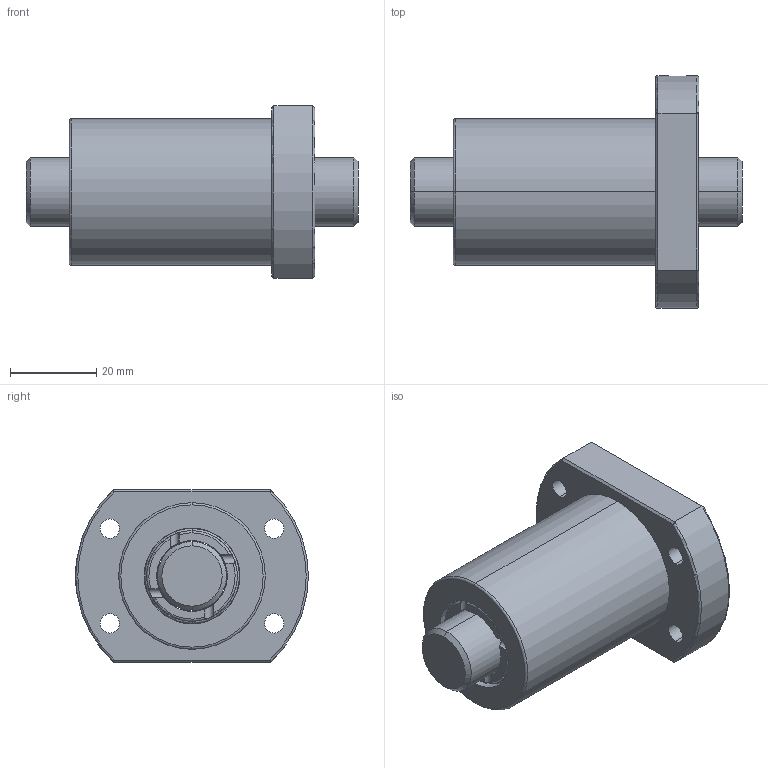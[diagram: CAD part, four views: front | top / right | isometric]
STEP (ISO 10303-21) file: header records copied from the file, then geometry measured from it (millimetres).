
FILE_DESCRIPTION (( 'STEP AP203' ), '1' );
FILE_NAME ('SFBR01610T3D.STEP', '2020-06-17T08:58:36', ( '' ), ( '' ), 'SwSTEP 2.0', 'SolidWorks 2013', '' );
FILE_SCHEMA (( 'CONFIG_CONTROL_DESIGN' ));
Length unit declared in the file: millimetre
Products named in the file (1): SFBR01610T3D
Bounding box: 77 x 54 x 40 mm (x, y, z)
Volume: 62628.7 mm3; surface area: 19795.3 mm2
Topology: 2 solids, 2 shells, 102 faces, 252 edges, 156 vertices
Faces by surface type: cylinder 50, torus 24, plane 24, cone 4
Entity records: 3899 total; most frequent: CARTESIAN_POINT 1407, DIRECTION 514, ORIENTED_EDGE 504, EDGE_CURVE 252, AXIS2_PLACEMENT_3D 223, VERTEX_POINT 156, CIRCLE 120, EDGE_LOOP 118
